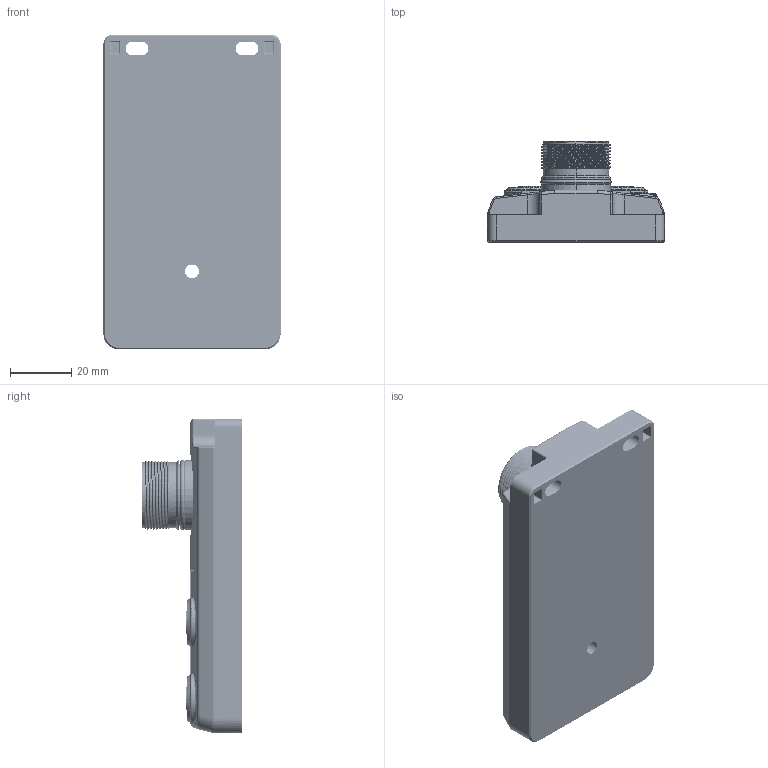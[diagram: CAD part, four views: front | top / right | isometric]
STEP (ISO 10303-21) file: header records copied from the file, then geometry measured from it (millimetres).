
FILE_DESCRIPTION((''),'2;1');
FILE_NAME('24P4LT_24N4LT__ASM','2022-06-01T',('PC'),(''),'PRO/ENGINEER BY PARAMETRIC TECHNOLOGY CORPORATION, 2009220','PRO/ENGINEER BY PARAMETRIC TECHNOLOGY CORPORATION, 2009220','');
FILE_SCHEMA(('CONFIG_CONTROL_DESIGN'));
Length unit declared in the file: millimetre
Products named in the file (8): PRT0008; PRT0009; PRT0010; PRT0011; ____-____1; PRT0012; ASM0006_ASM; 24P4LT_24N4LT__ASM
Assembly tree (7 placements, depth 3):
  24P4LT_24N4LT__ASM
    ASM0006_ASM
      PRT0008
      PRT0009
      PRT0010
      PRT0011
      ____-____1
      PRT0012
Bounding box: 58 x 33 x 103 mm (x, y, z)
Volume: 91474.8 mm3; surface area: 36277.1 mm2
Topology: 6 solids, 6 shells, 3819 faces, 10376 edges, 6642 vertices
Faces by surface type: plane 1365, cylinder 1051, cone 655, torus 369, bspline 266, revolution 66, extrusion 28, sphere 19
Entity records: 157261 total; most frequent: CARTESIAN_POINT 63900, ORIENTED_EDGE 20712, DIRECTION 18148, EDGE_CURVE 10356, AXIS2_PLACEMENT_3D 6993, VERTEX_POINT 6642, VECTOR 4096, LINE 4068
